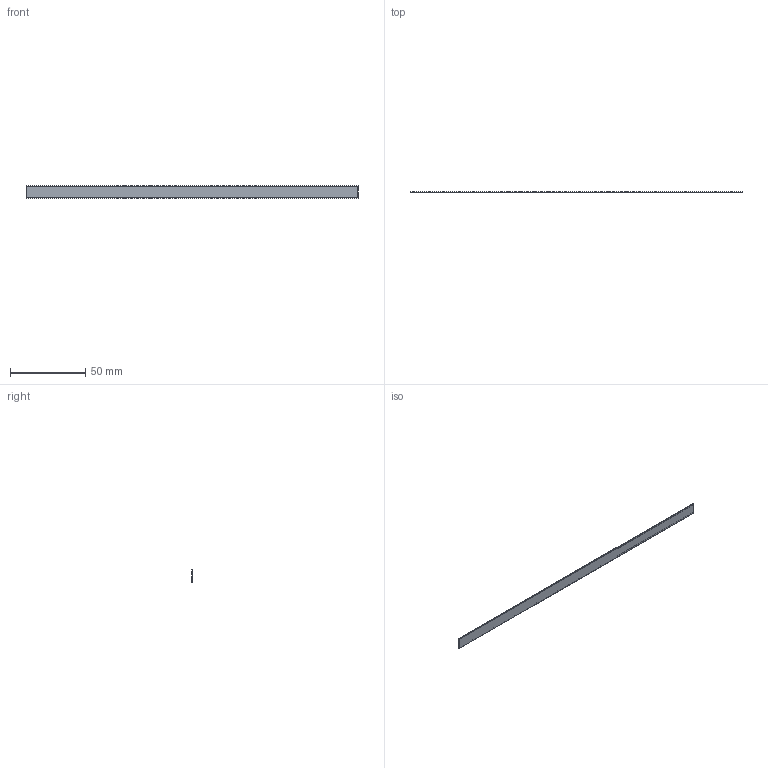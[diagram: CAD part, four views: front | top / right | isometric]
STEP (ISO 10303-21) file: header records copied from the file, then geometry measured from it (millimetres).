
FILE_DESCRIPTION (( 'STEP AP203' ), '1' );
FILE_NAME ('SA100-SS.STEP', '2024-08-29T02:08:17', ( '' ), ( '' ), 'SwSTEP 2.0', 'SolidWorks 2020', '' );
FILE_SCHEMA (( 'CONFIG_CONTROL_DESIGN' ));
Length unit declared in the file: millimetre
Products named in the file (1): SA100-SS
Bounding box: 220 x 0.45 x 8 mm (x, y, z)
Volume: 763.5 mm3; surface area: 3725.2 mm2
Topology: 1 solids, 1 shells, 125 faces, 300 edges, 200 vertices
Faces by surface type: plane 125
Entity records: 3631 total; most frequent: CARTESIAN_POINT 626, ORIENTED_EDGE 600, DIRECTION 552, LINE 300, VECTOR 300, EDGE_CURVE 300, VERTEX_POINT 200, EDGE_LOOP 148
